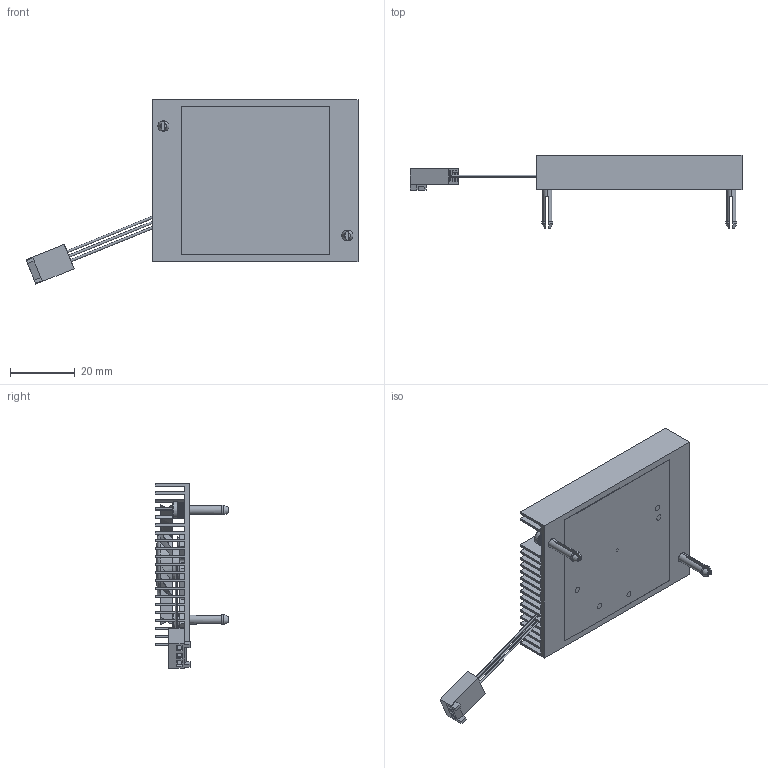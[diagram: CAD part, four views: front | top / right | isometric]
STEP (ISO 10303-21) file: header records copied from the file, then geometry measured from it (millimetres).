
FILE_DESCRIPTION (( 'STEP AP214' ), '1' );
FILE_NAME ('SZ05L+B.STEP', '2023-02-14T23:52:37', ( '' ), ( '' ), 'SwSTEP 2.0', 'SolidWorks 2020', '' );
FILE_SCHEMA (( 'AUTOMOTIVE_DESIGN' ));
Length unit declared in the file: inch
Products named in the file (1): SZ05L+B
Bounding box: 102.52 x 22.61 x 56.92 mm (x, y, z)
Volume: 12355.4 mm3; surface area: 29450.3 mm2
Topology: 9 solids, 9 shells, 962 faces, 2600 edges, 1711 vertices
Faces by surface type: plane 562, bspline 212, cylinder 140, cone 46, torus 2
Entity records: 56755 total; most frequent: CARTESIAN_POINT 21618, ORIENTED_EDGE 5188, DIRECTION 3798, EDGE_CURVE 2594, VERTEX_POINT 1711, LINE 1572, VECTOR 1572, AXIS2_PLACEMENT_3D 1113
